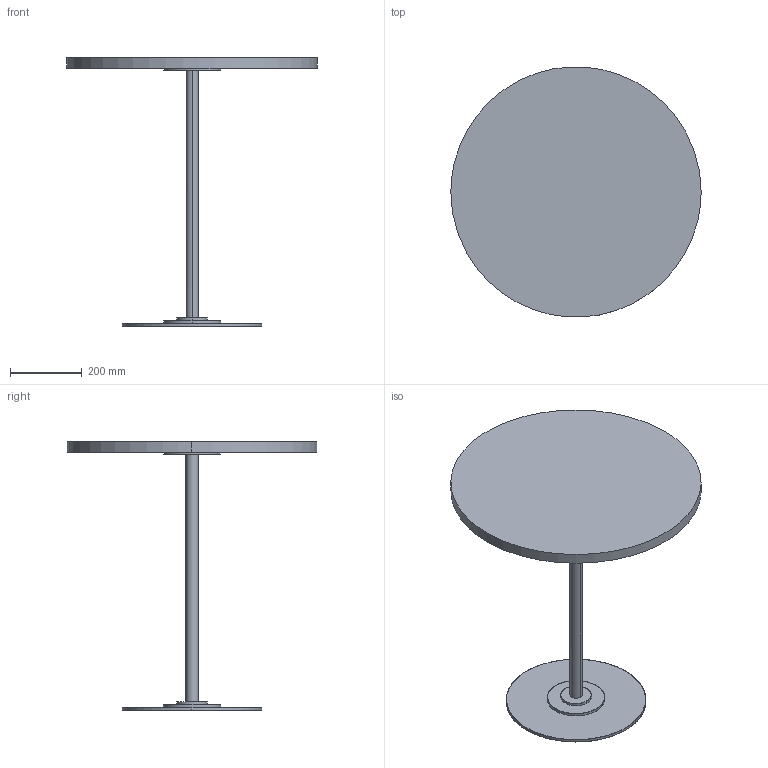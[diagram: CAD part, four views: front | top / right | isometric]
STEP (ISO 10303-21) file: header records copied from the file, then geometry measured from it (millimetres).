
FILE_DESCRIPTION(/* description */ (''),/* implementation_level */ '2;1');
FILE_NAME(/* name */ 'FRAMA_Table 57-ø7000-3D',/* time_stamp */ '2026-02-13T13:31:59+01:00',/* author */ (''),/* organization */ (''),/* preprocessor_version */ 'ST-DEVELOPER v16.5',/* originating_system */ 'Rhino 7.38',/* authorisation */ '');
FILE_SCHEMA (('CONFIG_CONTROL_DESIGN'));
Length unit declared in the file: millimetre
Products named in the file (1): Document
Bounding box: 700 x 699 x 752 mm (x, y, z)
Volume: 12965834.9 mm3; surface area: 1322968.8 mm2
Topology: 6 solids, 6 shells, 48 faces, 94 edges, 58 vertices
Faces by surface type: cylinder 22, bspline 14, plane 12
Entity records: 1796 total; most frequent: CARTESIAN_POINT 1076, ORIENTED_EDGE 188, EDGE_CURVE 94, EDGE_LOOP 58, VERTEX_POINT 58, ADVANCED_FACE 48, FACE_OUTER_BOUND 48, DIRECTION 38
